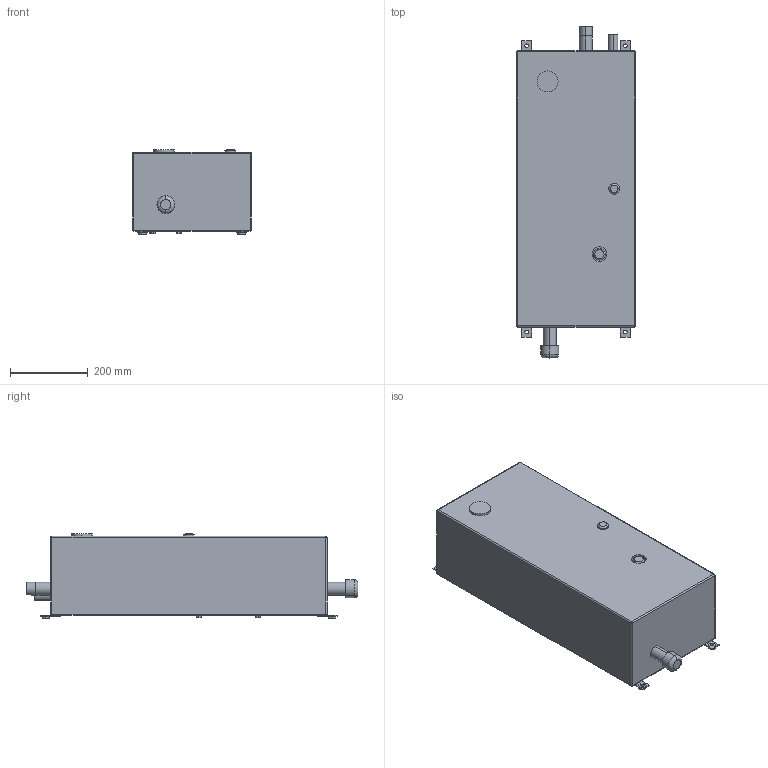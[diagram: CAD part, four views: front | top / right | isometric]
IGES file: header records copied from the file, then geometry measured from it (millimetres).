
Start section: SolidWorks IGES file using analytic representation for surfaces
Global section: file name: R:\AGF Projects\M5400 CnD\Drawings\Website\M5400A (CnD M5400 Assembly) - Web.IGS; native system: SolidWorks 2013; preprocessor: SolidWorks 2013; author: RReed; date: 130215.090124; units: inch
Bounding box: 304.8 x 854.08 x 218.82 mm (x, y, z)
Surface area: 887239.6 mm2 (no closed solid volume)
Topology: 0 solids, 2 shells, 141 faces, 324 edges, 198 vertices
Faces by surface type: plane 75, revolution 66
